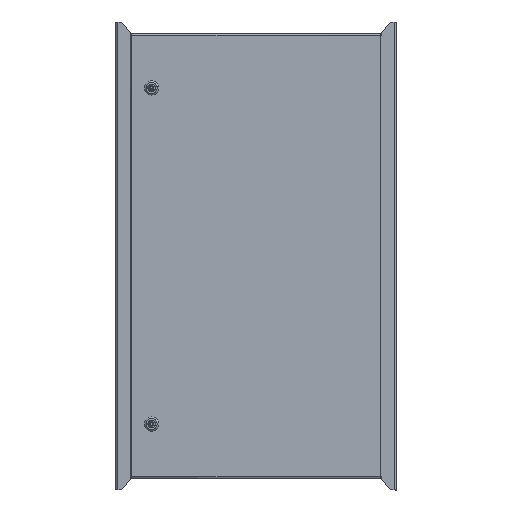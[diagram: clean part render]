
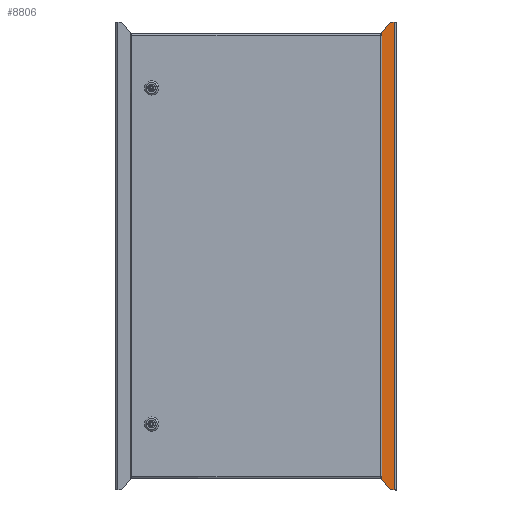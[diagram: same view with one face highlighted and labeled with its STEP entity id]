
A CAD part, top view. The second image highlights one B-rep face of the part: STEP entity #8806.
In plain terms, the highlighted planar face has unit normal (0, 0, 1).
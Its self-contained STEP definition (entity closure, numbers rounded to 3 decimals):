
#5091 = EDGE_CURVE ( 'NONE', #51535, #23950, #31917, .T. ) ;
#5913 = EDGE_CURVE ( 'NONE', #29934, #47272, #26892, .T. ) ;
#6130 = AXIS2_PLACEMENT_3D ( 'NONE', #98959, #28629, #95748 ) ;
#6501 = CARTESIAN_POINT ( 'NONE',  ( 385.008, -490., -20.25 ) ) ;
#8806 = ADVANCED_FACE ( 'NONE', ( #63764 ), #45522, .T. ) ;
#9038 = LINE ( 'NONE', #25704, #69234 ) ;
#9043 = AXIS2_PLACEMENT_3D ( 'NONE', #6501, #105931, #27579 ) ;
#10573 = LINE ( 'NONE', #87328, #47519 ) ;
#12813 = VERTEX_POINT ( 'NONE', #111332 ) ;
#12931 = DIRECTION ( 'NONE',  ( -1., 0., 0. ) ) ;
#15277 = CARTESIAN_POINT ( 'NONE',  ( 351.33, -461.57, -20.25 ) ) ;
#15627 = CARTESIAN_POINT ( 'NONE',  ( 381.37, -493.43, -20.25 ) ) ;
#15842 = DIRECTION ( 'NONE',  ( -1., 0., 0. ) ) ;
#16812 = CARTESIAN_POINT ( 'NONE',  ( 347.692, 460., -20.25 ) ) ;
#18268 = AXIS2_PLACEMENT_3D ( 'NONE', #85198, #84073, #110373 ) ;
#18274 = CARTESIAN_POINT ( 'NONE',  ( 349.85, 460., -20.25 ) ) ;
#22092 = CARTESIAN_POINT ( 'NONE',  ( 363.35, -460., -20.25 ) ) ;
#23651 = CIRCLE ( 'NONE', #18268, 5. ) ;
#23950 = VERTEX_POINT ( 'NONE', #80636 ) ;
#25704 = CARTESIAN_POINT ( 'NONE',  ( -106.588, 24.101, -20.25 ) ) ;
#26892 = LINE ( 'NONE', #18274, #70334 ) ;
#27579 = DIRECTION ( 'NONE',  ( 1., 0., 0. ) ) ;
#27635 = ORIENTED_EDGE ( 'NONE', *, *, #5913, .T. ) ;
#28629 = DIRECTION ( 'NONE',  ( 0., 0., -1. ) ) ;
#28941 = ORIENTED_EDGE ( 'NONE', *, *, #113023, .F. ) ;
#29180 = ORIENTED_EDGE ( 'NONE', *, *, #49574, .T. ) ;
#29339 = CIRCLE ( 'NONE', #43939, 5. ) ;
#29934 = VERTEX_POINT ( 'NONE', #94097 ) ;
#31822 = LINE ( 'NONE', #22092, #34988 ) ;
#31917 = LINE ( 'NONE', #66773, #68103 ) ;
#31982 = ORIENTED_EDGE ( 'NONE', *, *, #39550, .T. ) ;
#33321 = DIRECTION ( 'NONE',  ( -1., 0., 0. ) ) ;
#34939 = CARTESIAN_POINT ( 'NONE',  ( 347.692, -460., -20.25 ) ) ;
#34988 = VECTOR ( 'NONE', #12931, 1000. ) ;
#35457 = DIRECTION ( 'NONE',  ( -0.686, -0.728, 0. ) ) ;
#37310 = DIRECTION ( 'NONE',  ( 1., 0., 0. ) ) ;
#37822 = EDGE_LOOP ( 'NONE', ( #28941, #31982, #64001, #73752, #58091, #95997, #27635, #89781, #63079, #93198, #57818, #29180 ) ) ;
#39025 = VECTOR ( 'NONE', #33321, 1000. ) ;
#39550 = EDGE_CURVE ( 'NONE', #57658, #12813, #73069, .T. ) ;
#39646 = CARTESIAN_POINT ( 'NONE',  ( 351.33, 461.57, -20.25 ) ) ;
#39694 = EDGE_CURVE ( 'NONE', #79732, #29934, #23651, .T. ) ;
#40048 = AXIS2_PLACEMENT_3D ( 'NONE', #109516, #66585, #66036 ) ;
#42258 = LINE ( 'NONE', #77201, #50466 ) ;
#43939 = AXIS2_PLACEMENT_3D ( 'NONE', #63011, #61902, #37310 ) ;
#45522 = PLANE ( 'NONE',  #40048 ) ;
#47272 = VERTEX_POINT ( 'NONE', #39646 ) ;
#47519 = VECTOR ( 'NONE', #95335, 1000. ) ;
#49574 = EDGE_CURVE ( 'NONE', #72252, #107988, #59128, .T. ) ;
#50466 = VECTOR ( 'NONE', #96622, 1000. ) ;
#50781 = CARTESIAN_POINT ( 'NONE',  ( 388.85, -495., -20.25 ) ) ;
#51535 = VERTEX_POINT ( 'NONE', #16812 ) ;
#57658 = VERTEX_POINT ( 'NONE', #15627 ) ;
#57818 = ORIENTED_EDGE ( 'NONE', *, *, #66787, .F. ) ;
#58091 = ORIENTED_EDGE ( 'NONE', *, *, #98108, .T. ) ;
#59128 = CIRCLE ( 'NONE', #6130, 5. ) ;
#60946 = EDGE_CURVE ( 'NONE', #93929, #74264, #42258, .T. ) ;
#61902 = DIRECTION ( 'NONE',  ( 0., 0., -1. ) ) ;
#63011 = CARTESIAN_POINT ( 'NONE',  ( 347.692, 465., -20.25 ) ) ;
#63079 = ORIENTED_EDGE ( 'NONE', *, *, #5091, .T. ) ;
#63764 = FACE_OUTER_BOUND ( 'NONE', #37822, .T. ) ;
#64001 = ORIENTED_EDGE ( 'NONE', *, *, #79598, .F. ) ;
#66036 = DIRECTION ( 'NONE',  ( 1., 0., 0. ) ) ;
#66585 = DIRECTION ( 'NONE',  ( 0., 0., 1. ) ) ;
#66773 = CARTESIAN_POINT ( 'NONE',  ( 339.85, 460., -20.25 ) ) ;
#66787 = EDGE_CURVE ( 'NONE', #72252, #68167, #31822, .T. ) ;
#68103 = VECTOR ( 'NONE', #15842, 1000. ) ;
#68167 = VERTEX_POINT ( 'NONE', #100090 ) ;
#69234 = VECTOR ( 'NONE', #103461, 1000. ) ;
#70334 = VECTOR ( 'NONE', #35457, 1000. ) ;
#72252 = VERTEX_POINT ( 'NONE', #34939 ) ;
#72321 = CARTESIAN_POINT ( 'NONE',  ( 388.85, 495., -20.25 ) ) ;
#73069 = CIRCLE ( 'NONE', #9043, 5. ) ;
#73752 = ORIENTED_EDGE ( 'NONE', *, *, #60946, .F. ) ;
#74264 = VERTEX_POINT ( 'NONE', #50781 ) ;
#77201 = CARTESIAN_POINT ( 'NONE',  ( 388.85, 495., -20.25 ) ) ;
#79598 = EDGE_CURVE ( 'NONE', #74264, #12813, #10573, .T. ) ;
#79732 = VERTEX_POINT ( 'NONE', #105045 ) ;
#80636 = CARTESIAN_POINT ( 'NONE',  ( 343.85, 460., -20.25 ) ) ;
#82918 = EDGE_CURVE ( 'NONE', #23950, #68167, #89733, .T. ) ;
#83905 = CARTESIAN_POINT ( 'NONE',  ( 343.85, 495., -20.25 ) ) ;
#84073 = DIRECTION ( 'NONE',  ( 0., 0., 1. ) ) ;
#85198 = CARTESIAN_POINT ( 'NONE',  ( 385.008, 490., -20.25 ) ) ;
#86466 = EDGE_CURVE ( 'NONE', #47272, #51535, #29339, .T. ) ;
#87328 = CARTESIAN_POINT ( 'NONE',  ( 392.85, -495., -20.25 ) ) ;
#89733 = LINE ( 'NONE', #83905, #108329 ) ;
#89781 = ORIENTED_EDGE ( 'NONE', *, *, #86466, .T. ) ;
#93094 = DIRECTION ( 'NONE',  ( 0., -1., 0. ) ) ;
#93198 = ORIENTED_EDGE ( 'NONE', *, *, #82918, .T. ) ;
#93929 = VERTEX_POINT ( 'NONE', #72321 ) ;
#94097 = CARTESIAN_POINT ( 'NONE',  ( 381.37, 493.43, -20.25 ) ) ;
#95335 = DIRECTION ( 'NONE',  ( -1., 0., 0. ) ) ;
#95748 = DIRECTION ( 'NONE',  ( 1., 0., 0. ) ) ;
#95997 = ORIENTED_EDGE ( 'NONE', *, *, #39694, .T. ) ;
#96622 = DIRECTION ( 'NONE',  ( 0., -1., 0. ) ) ;
#96783 = LINE ( 'NONE', #111664, #39025 ) ;
#98108 = EDGE_CURVE ( 'NONE', #93929, #79732, #96783, .T. ) ;
#98959 = CARTESIAN_POINT ( 'NONE',  ( 347.692, -465., -20.25 ) ) ;
#100090 = CARTESIAN_POINT ( 'NONE',  ( 343.85, -460., -20.25 ) ) ;
#103461 = DIRECTION ( 'NONE',  ( -0.686, 0.728, 0. ) ) ;
#105045 = CARTESIAN_POINT ( 'NONE',  ( 385.008, 495., -20.25 ) ) ;
#105931 = DIRECTION ( 'NONE',  ( 0., 0., 1. ) ) ;
#107988 = VERTEX_POINT ( 'NONE', #15277 ) ;
#108329 = VECTOR ( 'NONE', #93094, 1000. ) ;
#109516 = CARTESIAN_POINT ( 'NONE',  ( 392.85, 495., -20.25 ) ) ;
#110373 = DIRECTION ( 'NONE',  ( 1., 0., 0. ) ) ;
#111332 = CARTESIAN_POINT ( 'NONE',  ( 385.008, -495., -20.25 ) ) ;
#111664 = CARTESIAN_POINT ( 'NONE',  ( 392.85, 495., -20.25 ) ) ;
#113023 = EDGE_CURVE ( 'NONE', #57658, #107988, #9038, .T. ) ;
